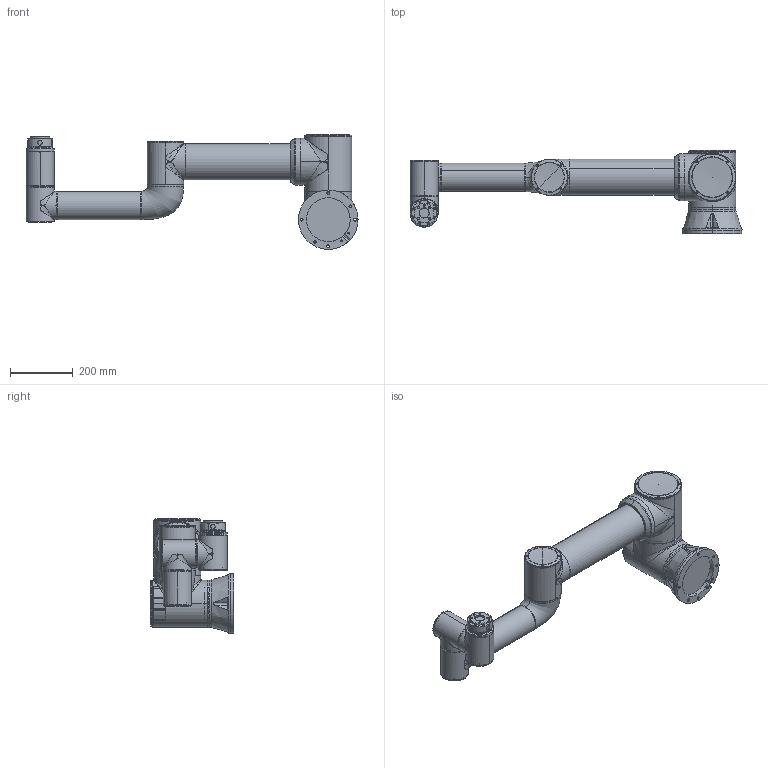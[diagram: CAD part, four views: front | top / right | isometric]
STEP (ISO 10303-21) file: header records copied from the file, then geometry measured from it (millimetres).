
FILE_DESCRIPTION (( 'STEP AP214' ), '1' );
FILE_NAME ('RD20-FR16-V6.0Èí¼þÄ£ÐÍ.step', '2023-03-21T06:30:23', ( '' ), ( '' ), 'SwSTEP 2.0', 'SolidWorks 2018', '' );
FILE_SCHEMA (( 'AUTOMOTIVE_DESIGN' ));
Length unit declared in the file: millimetre
Products named in the file (7): RD20-FR16-V6.0-1; RD20-FR16-V6.0软件模型; RD20-FR16-V6.0-2; RD20-FR16-V6.0-7; RD20-FR16-V6.0-5; RD20-FR16-V6.0-4; RD20-FR16-V6.0-3
Assembly tree (7 placements, depth 2):
  RD20-FR16-V6.0软件模型
    RD20-FR16-V6.0-1
    RD20-FR16-V6.0-2
    RD20-FR16-V6.0-3
    RD20-FR16-V6.0-4
    RD20-FR16-V6.0-5  x2
    RD20-FR16-V6.0-7
Bounding box: 1059.87 x 266.69 x 366.69 mm (x, y, z)
Volume: 19628021.4 mm3; surface area: 1218166.8 mm2
Topology: 43 solids, 64 shells, 1779 faces, 3991 edges, 2461 vertices
Faces by surface type: plane 764, cylinder 560, bspline 170, cone 128, sphere 96, torus 61
Entity records: 99761 total; most frequent: CARTESIAN_POINT 64194, ORIENTED_EDGE 7242, DIRECTION 7163, EDGE_CURVE 3621, AXIS2_PLACEMENT_3D 2802, VERTEX_POINT 2249, EDGE_LOOP 1788, ADVANCED_FACE 1624
